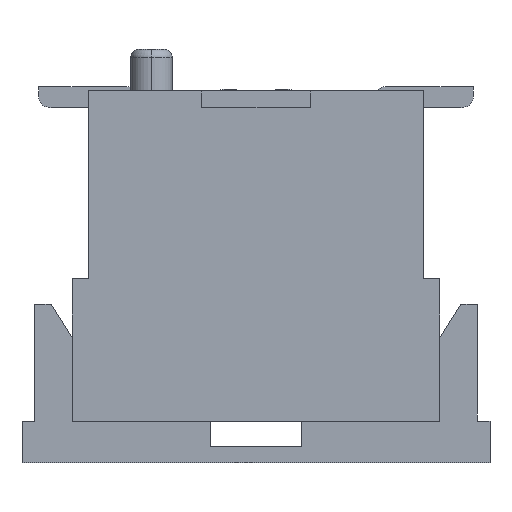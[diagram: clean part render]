
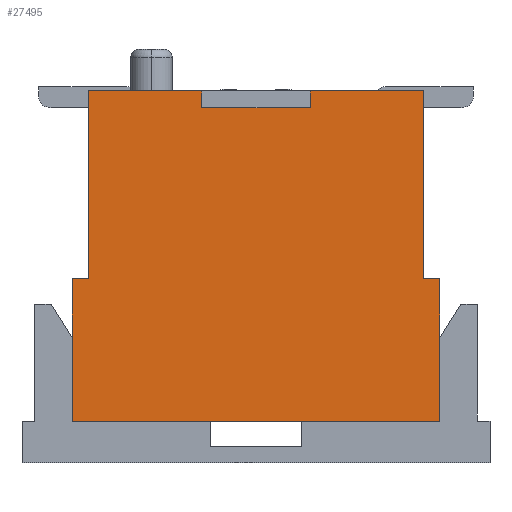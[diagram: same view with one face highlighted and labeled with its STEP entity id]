
A CAD part, left-side view. The second image highlights one B-rep face of the part: STEP entity #27495.
In plain terms, the highlighted planar face has unit normal (-1, 0, 0).
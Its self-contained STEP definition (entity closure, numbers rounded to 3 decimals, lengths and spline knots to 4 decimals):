
#146=CARTESIAN_POINT('Vertex',(-10.1,2.,3.95)) ;
#151=CARTESIAN_POINT('Line Origine',(-10.1,1.325,3.95)) ;
#155=CARTESIAN_POINT('Vertex',(-10.1,0.65,3.95)) ;
#176=CARTESIAN_POINT('Vertex',(-10.1,-0.65,3.95)) ;
#179=CARTESIAN_POINT('Line Origine',(-10.1,-1.325,3.95)) ;
#183=CARTESIAN_POINT('Vertex',(-10.1,-2.,3.95)) ;
#346=CARTESIAN_POINT('Line Origine',(-10.1,-2.,2.825)) ;
#350=CARTESIAN_POINT('Vertex',(-10.1,-2.,1.7)) ;
#5373=CARTESIAN_POINT('Vertex',(-10.1,2.,1.7)) ;
#5376=CARTESIAN_POINT('Line Origine',(-10.1,2.,2.825)) ;
#5897=CARTESIAN_POINT('Vertex',(-10.1,-2.2,0.)) ;
#5902=CARTESIAN_POINT('Line Origine',(-10.1,0.,0.)) ;
#5906=CARTESIAN_POINT('Vertex',(-10.1,2.2,0.)) ;
#27183=CARTESIAN_POINT('Line Origine',(-10.1,0.65,3.85)) ;
#27187=CARTESIAN_POINT('Vertex',(-10.1,0.65,3.75)) ;
#27231=CARTESIAN_POINT('Line Origine',(-10.1,-0.65,3.85)) ;
#27235=CARTESIAN_POINT('Vertex',(-10.1,-0.65,3.75)) ;
#27322=CARTESIAN_POINT('Vertex',(-10.1,-2.2,1.7)) ;
#27325=CARTESIAN_POINT('Line Origine',(-10.1,-2.2,0.85)) ;
#27342=CARTESIAN_POINT('Line Origine',(-10.1,2.2,0.85)) ;
#27346=CARTESIAN_POINT('Vertex',(-10.1,2.2,1.7)) ;
#27366=CARTESIAN_POINT('Line Origine',(-10.1,2.1,1.7)) ;
#27378=CARTESIAN_POINT('Line Origine',(-10.1,0.,3.75)) ;
#27464=CARTESIAN_POINT('Line Origine',(-10.1,-2.1,1.7)) ;
#27476=CARTESIAN_POINT('Axis2P3D Location',(-10.1,0.,0.)) ;
#152=DIRECTION('Vector Direction',(0.,-1.,0.)) ;
#180=DIRECTION('Vector Direction',(0.,-1.,0.)) ;
#347=DIRECTION('Vector Direction',(0.,0.,1.)) ;
#5377=DIRECTION('Vector Direction',(0.,0.,1.)) ;
#5903=DIRECTION('Vector Direction',(0.,1.,0.)) ;
#27184=DIRECTION('Vector Direction',(0.,0.,-1.)) ;
#27232=DIRECTION('Vector Direction',(0.,0.,-1.)) ;
#27326=DIRECTION('Vector Direction',(0.,0.,1.)) ;
#27343=DIRECTION('Vector Direction',(0.,0.,1.)) ;
#27367=DIRECTION('Vector Direction',(0.,-1.,0.)) ;
#27379=DIRECTION('Vector Direction',(0.,1.,0.)) ;
#27465=DIRECTION('Vector Direction',(0.,1.,0.)) ;
#27477=DIRECTION('Axis2P3D Direction',(1.,0.,0.)) ;
#27478=DIRECTION('Axis2P3D XDirection',(0.,1.,0.)) ;
#27479=AXIS2_PLACEMENT_3D('Plane Axis2P3D',#27476,#27477,#27478) ;
#27482=ORIENTED_EDGE('',*,*,#27237,.T.) ;
#27483=ORIENTED_EDGE('',*,*,#27382,.F.) ;
#27484=ORIENTED_EDGE('',*,*,#27189,.F.) ;
#27485=ORIENTED_EDGE('',*,*,#157,.F.) ;
#27486=ORIENTED_EDGE('',*,*,#5380,.F.) ;
#27487=ORIENTED_EDGE('',*,*,#27370,.F.) ;
#27488=ORIENTED_EDGE('',*,*,#27348,.F.) ;
#27489=ORIENTED_EDGE('',*,*,#5908,.F.) ;
#27490=ORIENTED_EDGE('',*,*,#27329,.F.) ;
#27491=ORIENTED_EDGE('',*,*,#27468,.F.) ;
#27492=ORIENTED_EDGE('',*,*,#352,.F.) ;
#27493=ORIENTED_EDGE('',*,*,#185,.F.) ;
#153=VECTOR('Line Direction',#152,1.) ;
#181=VECTOR('Line Direction',#180,1.) ;
#348=VECTOR('Line Direction',#347,1.) ;
#5378=VECTOR('Line Direction',#5377,1.) ;
#5904=VECTOR('Line Direction',#5903,1.) ;
#27185=VECTOR('Line Direction',#27184,1.) ;
#27233=VECTOR('Line Direction',#27232,1.) ;
#27327=VECTOR('Line Direction',#27326,1.) ;
#27344=VECTOR('Line Direction',#27343,1.) ;
#27368=VECTOR('Line Direction',#27367,1.) ;
#27380=VECTOR('Line Direction',#27379,1.) ;
#27466=VECTOR('Line Direction',#27465,1.) ;
#27495=ADVANCED_FACE('\X2\96F64EF651E04F554F53\X0\',(#27494),#27480,.F.) ;
#157=EDGE_CURVE('',#147,#156,#154,.T.) ;
#185=EDGE_CURVE('',#177,#184,#182,.T.) ;
#352=EDGE_CURVE('',#184,#351,#349,.F.) ;
#5380=EDGE_CURVE('',#5374,#147,#5379,.T.) ;
#5908=EDGE_CURVE('',#5898,#5907,#5905,.T.) ;
#27189=EDGE_CURVE('',#156,#27188,#27186,.T.) ;
#27237=EDGE_CURVE('',#177,#27236,#27234,.T.) ;
#27329=EDGE_CURVE('',#27323,#5898,#27328,.F.) ;
#27348=EDGE_CURVE('',#5907,#27347,#27345,.T.) ;
#27370=EDGE_CURVE('',#27347,#5374,#27369,.T.) ;
#27382=EDGE_CURVE('',#27188,#27236,#27381,.F.) ;
#27468=EDGE_CURVE('',#351,#27323,#27467,.F.) ;
#27481=EDGE_LOOP('',(#27482,#27483,#27484,#27485,#27486,#27487,#27488,#27489,#27490,#27491,#27492,#27493)) ;
#27494=FACE_OUTER_BOUND('',#27481,.T.) ;
#154=LINE('Line',#151,#153) ;
#182=LINE('Line',#179,#181) ;
#349=LINE('Line',#346,#348) ;
#5379=LINE('Line',#5376,#5378) ;
#5905=LINE('Line',#5902,#5904) ;
#27186=LINE('Line',#27183,#27185) ;
#27234=LINE('Line',#27231,#27233) ;
#27328=LINE('Line',#27325,#27327) ;
#27345=LINE('Line',#27342,#27344) ;
#27369=LINE('Line',#27366,#27368) ;
#27381=LINE('Line',#27378,#27380) ;
#27467=LINE('Line',#27464,#27466) ;
#27480=PLANE('Plane',#27479) ;
#147=VERTEX_POINT('',#146) ;
#156=VERTEX_POINT('',#155) ;
#177=VERTEX_POINT('',#176) ;
#184=VERTEX_POINT('',#183) ;
#351=VERTEX_POINT('',#350) ;
#5374=VERTEX_POINT('',#5373) ;
#5898=VERTEX_POINT('',#5897) ;
#5907=VERTEX_POINT('',#5906) ;
#27188=VERTEX_POINT('',#27187) ;
#27236=VERTEX_POINT('',#27235) ;
#27323=VERTEX_POINT('',#27322) ;
#27347=VERTEX_POINT('',#27346) ;
